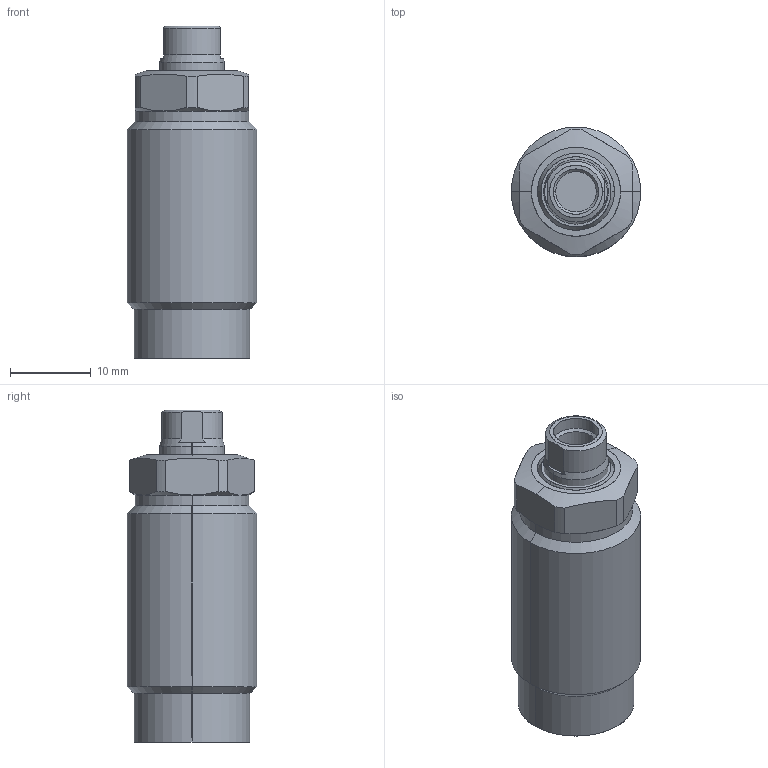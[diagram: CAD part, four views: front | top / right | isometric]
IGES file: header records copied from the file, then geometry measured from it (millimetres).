
Start section: SolidWorks IGES file using analytic representation for surfaces
Global section: file name: D:\abhilash\nijil\cylinder\Clasys1\dp converted\01\pt\02\0102-0102.IGS; native system: SolidWorks 2010; preprocessor: SolidWorks 2010; author: nidheesh; date: 130730.113639; units: millimetre
Bounding box: 16 x 16 x 41 mm (x, y, z)
Surface area: 2792.9 mm2 (no closed solid volume)
Topology: 0 solids, 0 shells, 74 faces, 844 edges, 844 vertices
Faces by surface type: revolution 50, bspline 24
